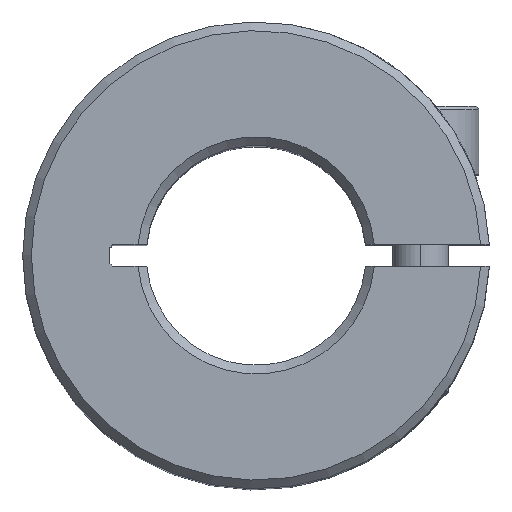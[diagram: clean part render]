
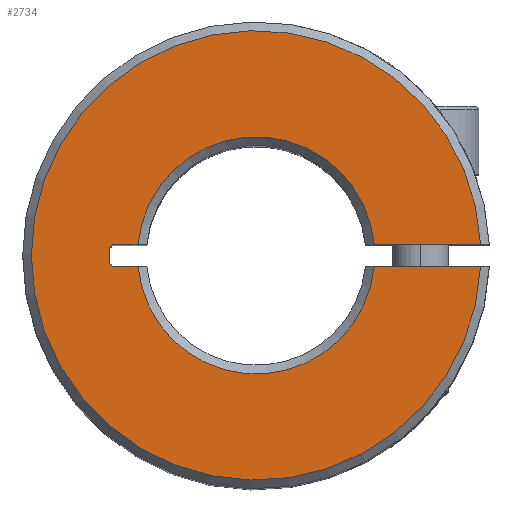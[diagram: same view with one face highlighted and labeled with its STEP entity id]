
A CAD part, top view. The second image highlights one B-rep face of the part: STEP entity #2734.
In plain terms, the highlighted planar face has unit normal (0, 0, 1).
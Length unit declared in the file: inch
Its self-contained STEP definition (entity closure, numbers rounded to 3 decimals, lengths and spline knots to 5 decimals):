
#641=DIRECTION('',(-0.707,0.707,0.));
#642=VECTOR('',#641,0.0114);
#643=CARTESIAN_POINT('',(-0.41123,-0.0315,0.98425));
#644=LINE('',#643,#642);
#645=DIRECTION('',(-1.,0.,0.));
#646=VECTOR('',#645,0.07273);
#647=CARTESIAN_POINT('',(-0.3385,-0.0315,0.98425));
#648=LINE('',#647,#646);
#649=CARTESIAN_POINT('',(0.,0.,0.98425));
#650=DIRECTION('',(0.,0.,-1.));
#651=DIRECTION('',(0.996,-0.093,0.));
#652=AXIS2_PLACEMENT_3D('',#649,#650,#651);
#654=DIRECTION('',(-1.,0.,0.));
#655=VECTOR('',#654,0.30502);
#656=CARTESIAN_POINT('',(0.64352,-0.0315,0.98425));
#657=LINE('',#656,#655);
#658=DIRECTION('',(1.,0.,0.));
#659=VECTOR('',#658,0.30502);
#660=CARTESIAN_POINT('',(0.3385,0.0315,0.98425));
#661=LINE('',#660,#659);
#662=CARTESIAN_POINT('',(0.,0.,0.98425));
#663=DIRECTION('',(0.,0.,-1.));
#664=DIRECTION('',(-0.996,0.093,0.));
#665=AXIS2_PLACEMENT_3D('',#662,#663,#664);
#667=DIRECTION('',(1.,0.,0.));
#668=VECTOR('',#667,0.07273);
#669=CARTESIAN_POINT('',(-0.41123,0.0315,0.98425));
#670=LINE('',#669,#668);
#671=DIRECTION('',(0.707,0.707,0.));
#672=VECTOR('',#671,0.0114);
#673=CARTESIAN_POINT('',(-0.41929,0.02344,0.98425));
#674=LINE('',#673,#672);
#675=DIRECTION('',(0.,1.,0.));
#676=VECTOR('',#675,0.04688);
#677=CARTESIAN_POINT('',(-0.41929,-0.02344,0.98425));
#678=LINE('',#677,#676);
#1325=CARTESIAN_POINT('',(0.,0.,0.98425));
#1326=DIRECTION('',(0.,0.,1.));
#1327=DIRECTION('',(0.999,0.049,0.));
#1328=AXIS2_PLACEMENT_3D('',#1325,#1326,#1327);
#1875=CARTESIAN_POINT('',(-0.41123,-0.0315,0.98425));
#1876=CARTESIAN_POINT('',(-0.41929,-0.02344,0.98425));
#1877=VERTEX_POINT('',#1875);
#1878=VERTEX_POINT('',#1876);
#1879=CARTESIAN_POINT('',(-0.3385,-0.0315,0.98425));
#1880=VERTEX_POINT('',#1879);
#1881=CARTESIAN_POINT('',(0.3385,-0.0315,0.98425));
#1882=VERTEX_POINT('',#1881);
#1883=CARTESIAN_POINT('',(0.64352,-0.0315,0.98425));
#1884=VERTEX_POINT('',#1883);
#1885=CARTESIAN_POINT('',(0.3385,0.0315,0.98425));
#1886=CARTESIAN_POINT('',(0.64352,0.0315,0.98425));
#1887=VERTEX_POINT('',#1885);
#1888=VERTEX_POINT('',#1886);
#1889=CARTESIAN_POINT('',(-0.3385,0.0315,0.98425));
#1890=VERTEX_POINT('',#1889);
#1891=CARTESIAN_POINT('',(-0.41123,0.0315,0.98425));
#1892=VERTEX_POINT('',#1891);
#1893=CARTESIAN_POINT('',(-0.41929,0.02344,0.98425));
#1894=VERTEX_POINT('',#1893);
#2710=CARTESIAN_POINT('',(0.,0.,0.98425));
#2711=DIRECTION('',(0.,0.,1.));
#2712=DIRECTION('',(1.,0.,0.));
#2713=AXIS2_PLACEMENT_3D('',#2710,#2711,#2712);
#2714=PLANE('',#2713);
#2716=ORIENTED_EDGE('',*,*,#2715,.F.);
#2717=ORIENTED_EDGE('',*,*,#2672,.F.);
#2718=ORIENTED_EDGE('',*,*,#2695,.F.);
#2719=ORIENTED_EDGE('',*,*,#2548,.F.);
#2721=ORIENTED_EDGE('',*,*,#2720,.F.);
#2723=ORIENTED_EDGE('',*,*,#2722,.F.);
#2725=ORIENTED_EDGE('',*,*,#2724,.F.);
#2727=ORIENTED_EDGE('',*,*,#2726,.F.);
#2729=ORIENTED_EDGE('',*,*,#2728,.F.);
#2731=ORIENTED_EDGE('',*,*,#2730,.F.);
#2732=EDGE_LOOP('',(#2716,#2717,#2718,#2719,#2721,#2723,#2725,#2727,#2729,
#2731));
#2733=FACE_OUTER_BOUND('',#2732,.F.);
#653=CIRCLE('',#652,0.33996);
#666=CIRCLE('',#665,0.33996);
#1329=CIRCLE('',#1328,0.64429);
#2548=EDGE_CURVE('',#1884,#1882,#657,.T.);
#2672=EDGE_CURVE('',#1880,#1877,#648,.T.);
#2695=EDGE_CURVE('',#1882,#1880,#653,.T.);
#2715=EDGE_CURVE('',#1877,#1878,#644,.T.);
#2720=EDGE_CURVE('',#1888,#1884,#1329,.T.);
#2722=EDGE_CURVE('',#1887,#1888,#661,.T.);
#2724=EDGE_CURVE('',#1890,#1887,#666,.T.);
#2726=EDGE_CURVE('',#1892,#1890,#670,.T.);
#2728=EDGE_CURVE('',#1894,#1892,#674,.T.);
#2730=EDGE_CURVE('',#1878,#1894,#678,.T.);
#2734=ADVANCED_FACE('',(#2733),#2714,.T.);
